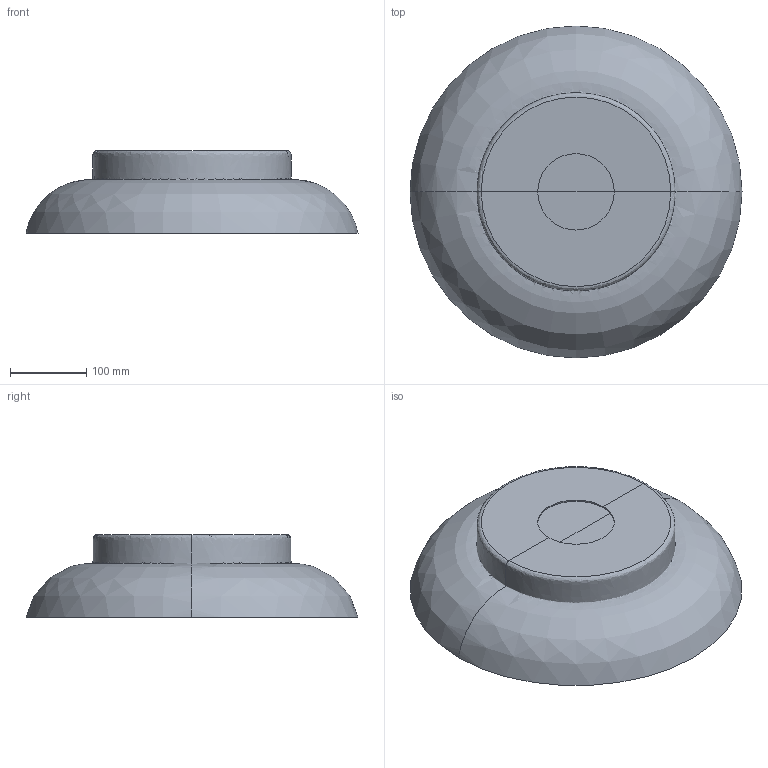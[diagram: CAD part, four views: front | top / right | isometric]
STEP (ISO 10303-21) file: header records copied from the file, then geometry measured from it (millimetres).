
FILE_DESCRIPTION(/* description */ (''),/* implementation_level */ '2;1');
FILE_NAME(/* name */ '3087BTF Chapeau plafone Ø42',/* time_stamp */ '2026-04-27T11:33:14+02:00',/* author */ (''),/* organization */ (''),/* preprocessor_version */ 'ST-DEVELOPER v19.2',/* originating_system */ 'Rhino 8.20',/* authorisation */ '');
FILE_SCHEMA (('CONFIG_CONTROL_DESIGN'));
Length unit declared in the file: millimetre
Products named in the file (1): Document
Bounding box: 434.28 x 434.28 x 108.5 mm (x, y, z)
Volume: 493826.6 mm3; surface area: 699483.5 mm2
Topology: 2 solids, 2 shells, 20 faces, 40 edges, 20 vertices
Faces by surface type: bspline 10, plane 8, cylinder 2
Entity records: 2030 total; most frequent: CARTESIAN_POINT 1628, ORIENTED_EDGE 72, DIRECTION 46, EDGE_CURVE 36, AXIS2_PLACEMENT_3D 28, ADVANCED_FACE 20, FACE_OUTER_BOUND 20, EDGE_LOOP 20
